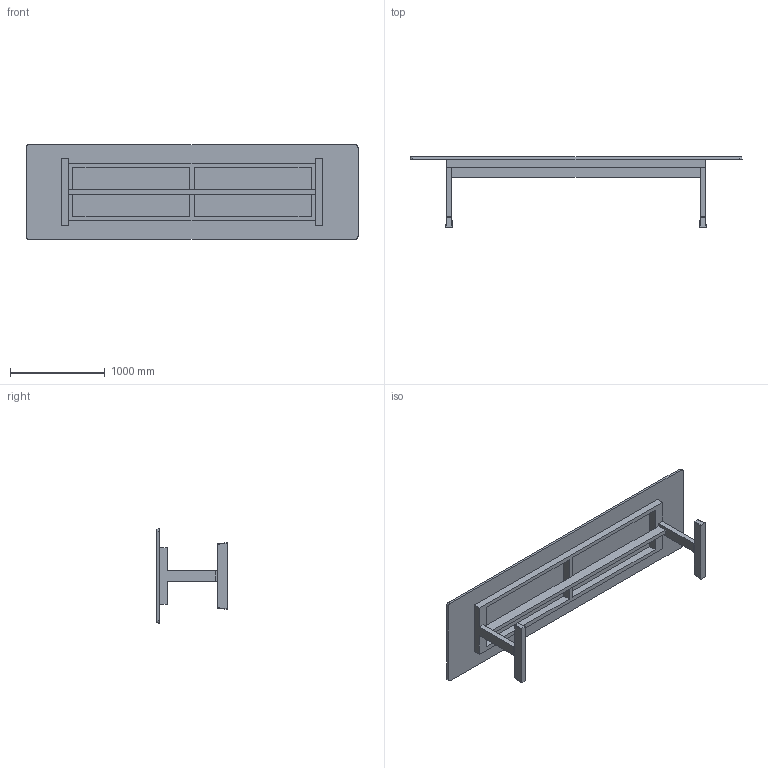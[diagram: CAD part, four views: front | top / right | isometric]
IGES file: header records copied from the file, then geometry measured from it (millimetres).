
Start section: SolidWorks IGES file using analytic representation for surfaces
Global section: file name: C:\Users\David.BDLE\Desktop\405FL Refectory Fixed Table_va\405FG Refectory Fixed Table_3D DWG.IGS; native system: SolidWorks 2016; preprocessor: SolidWorks 2016; author: David; date: 210614.160727; units: millimetre
Bounding box: 3500 x 740 x 1000 mm (x, y, z)
Surface area: 9847477.1 mm2 (no closed solid volume)
Topology: 0 solids, 0 shells, 67 faces, 840 edges, 840 vertices
Faces by surface type: bspline 47, revolution 20
